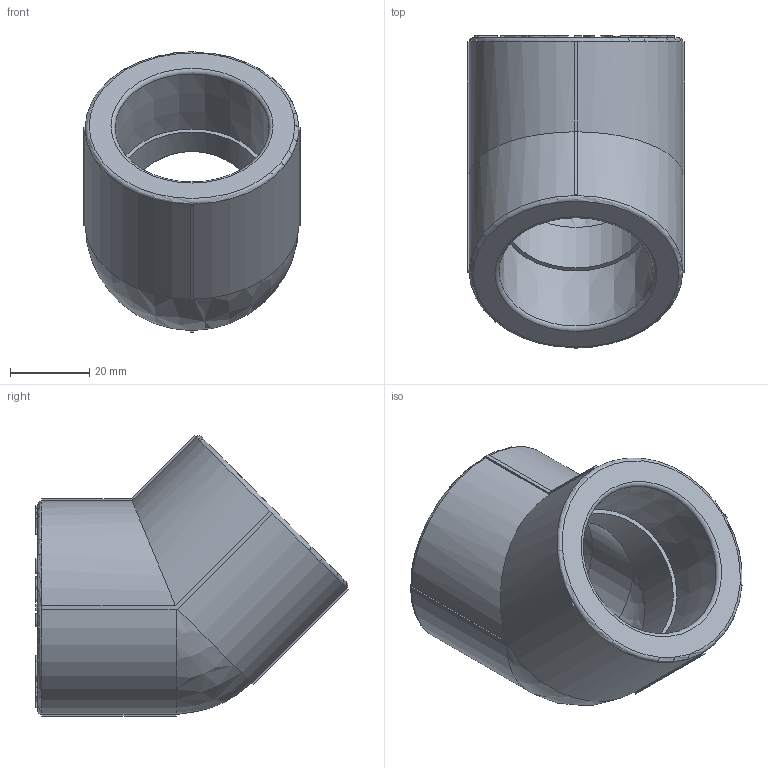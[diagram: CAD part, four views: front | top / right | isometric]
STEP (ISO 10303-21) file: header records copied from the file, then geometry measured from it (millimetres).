
FILE_DESCRIPTION(('STEP AP203'), '1');
FILE_NAME('ÂÐ.752216.012 - VTp.759.0.040', '', ('UNSPECIFIED'), ('UNSPECIFIED'), 'C3D Converter', 'C3D Toolkit', '');
FILE_SCHEMA(('CONFIG_CONTROL_DESIGN'));
Length unit declared in the file: millimetre
Products named in the file (1): ВР.752216.012
Bounding box: 55 x 78.99 x 70.99 mm (x, y, z)
Volume: 81147.7 mm3; surface area: 22747.3 mm2
Topology: 1 solids, 1 shells, 576 faces, 1602 edges, 1058 vertices
Faces by surface type: extrusion 312, plane 246, cylinder 10, torus 4, cone 2, sphere 2
Full cylindrical faces by diameter (mm): 36.5 x2
Entity records: 18664 total; most frequent: CARTESIAN_POINT 5108, ORIENTED_EDGE 3184, DIRECTION 1847, EDGE_CURVE 1592, VECTOR 1237, VERTEX_POINT 1058, B_SPLINE_CURVE_WITH_KNOTS 936, LINE 925
